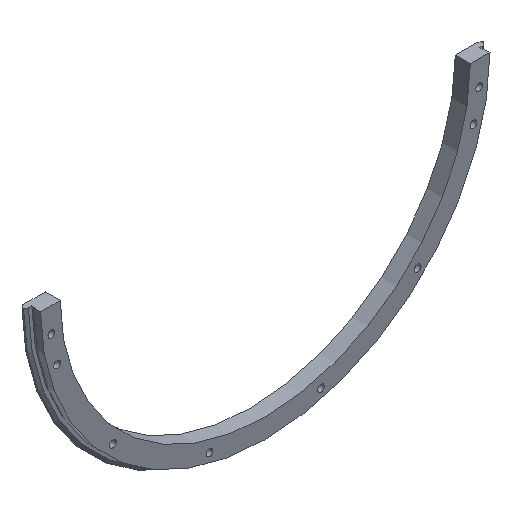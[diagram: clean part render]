
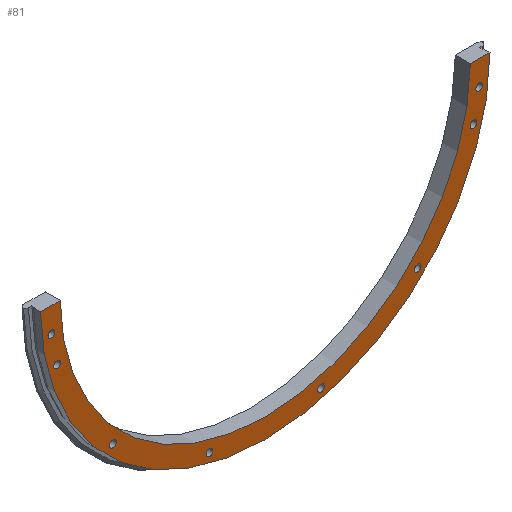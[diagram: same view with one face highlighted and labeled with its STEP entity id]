
A CAD part, isometric view. The second image highlights one B-rep face of the part: STEP entity #81.
In plain terms, the highlighted planar face has unit normal (0, -1, 0).
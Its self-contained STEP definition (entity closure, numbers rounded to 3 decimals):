
#81 = ADVANCED_FACE( '', ( #124, #125, #126, #127, #128, #129, #130, #131, #132 ), #133, .T. );
#124 = FACE_BOUND( '', #237, .T. );
#125 = FACE_BOUND( '', #238, .T. );
#126 = FACE_BOUND( '', #239, .T. );
#127 = FACE_BOUND( '', #240, .T. );
#128 = FACE_BOUND( '', #241, .T. );
#129 = FACE_BOUND( '', #242, .T. );
#130 = FACE_BOUND( '', #243, .T. );
#131 = FACE_BOUND( '', #244, .T. );
#132 = FACE_OUTER_BOUND( '', #245, .T. );
#133 = PLANE( '', #246 );
#237 = EDGE_LOOP( '', ( #386 ) );
#238 = EDGE_LOOP( '', ( #387 ) );
#239 = EDGE_LOOP( '', ( #388 ) );
#240 = EDGE_LOOP( '', ( #389 ) );
#241 = EDGE_LOOP( '', ( #390 ) );
#242 = EDGE_LOOP( '', ( #391 ) );
#243 = EDGE_LOOP( '', ( #392 ) );
#244 = EDGE_LOOP( '', ( #393 ) );
#245 = EDGE_LOOP( '', ( #394, #395, #396, #397 ) );
#246 = AXIS2_PLACEMENT_3D( '', #398, #399, #400 );
#386 = ORIENTED_EDGE( '', *, *, #592, .F. );
#387 = ORIENTED_EDGE( '', *, *, #593, .F. );
#388 = ORIENTED_EDGE( '', *, *, #594, .F. );
#389 = ORIENTED_EDGE( '', *, *, #595, .F. );
#390 = ORIENTED_EDGE( '', *, *, #596, .F. );
#391 = ORIENTED_EDGE( '', *, *, #597, .F. );
#392 = ORIENTED_EDGE( '', *, *, #598, .F. );
#393 = ORIENTED_EDGE( '', *, *, #599, .F. );
#394 = ORIENTED_EDGE( '', *, *, #590, .T. );
#395 = ORIENTED_EDGE( '', *, *, #571, .T. );
#396 = ORIENTED_EDGE( '', *, *, #600, .F. );
#397 = ORIENTED_EDGE( '', *, *, #601, .T. );
#398 = CARTESIAN_POINT( '', ( -167., 0., 0. ) );
#399 = DIRECTION( '', ( 0., -1., 0. ) );
#400 = DIRECTION( '', ( 0., 0., -1. ) );
#571 = EDGE_CURVE( '', #634, #635, #636, .T. );
#590 = EDGE_CURVE( '', #668, #634, #669, .T. );
#592 = EDGE_CURVE( '', #671, #671, #672, .T. );
#593 = EDGE_CURVE( '', #673, #673, #674, .T. );
#594 = EDGE_CURVE( '', #675, #675, #676, .T. );
#595 = EDGE_CURVE( '', #677, #677, #678, .T. );
#596 = EDGE_CURVE( '', #679, #679, #680, .T. );
#597 = EDGE_CURVE( '', #681, #681, #682, .T. );
#598 = EDGE_CURVE( '', #683, #683, #684, .T. );
#599 = EDGE_CURVE( '', #685, #685, #686, .T. );
#600 = EDGE_CURVE( '', #687, #635, #688, .T. );
#601 = EDGE_CURVE( '', #687, #668, #689, .T. );
#634 = VERTEX_POINT( '', #748 );
#635 = VERTEX_POINT( '', #749 );
#636 = LINE( '', #750, #751 );
#668 = VERTEX_POINT( '', #810 );
#669 = CIRCLE( '', #811, 183. );
#671 = VERTEX_POINT( '', #814 );
#672 = CIRCLE( '', #815, 2.75 );
#673 = VERTEX_POINT( '', #816 );
#674 = CIRCLE( '', #817, 2.75 );
#675 = VERTEX_POINT( '', #818 );
#676 = CIRCLE( '', #819, 2.75 );
#677 = VERTEX_POINT( '', #820 );
#678 = CIRCLE( '', #821, 2.75 );
#679 = VERTEX_POINT( '', #822 );
#680 = CIRCLE( '', #823, 2.75 );
#681 = VERTEX_POINT( '', #824 );
#682 = CIRCLE( '', #825, 2.75 );
#683 = VERTEX_POINT( '', #826 );
#684 = CIRCLE( '', #827, 2.75 );
#685 = VERTEX_POINT( '', #828 );
#686 = CIRCLE( '', #829, 2.75 );
#687 = VERTEX_POINT( '', #830 );
#688 = CIRCLE( '', #831, 167. );
#689 = LINE( '', #832, #833 );
#748 = CARTESIAN_POINT( '', ( 182.994, 0., -1.5 ) );
#749 = CARTESIAN_POINT( '', ( 166.993, 0., -1.5 ) );
#750 = CARTESIAN_POINT( '', ( 193., 0., -1.5 ) );
#751 = VECTOR( '', #906, 1000. );
#810 = CARTESIAN_POINT( '', ( -182.994, 0., -1.5 ) );
#811 = AXIS2_PLACEMENT_3D( '', #931, #932, #933 );
#814 = CARTESIAN_POINT( '', ( 124.097, 0., -126.847 ) );
#815 = AXIS2_PLACEMENT_3D( '', #935, #936, #937 );
#816 = CARTESIAN_POINT( '', ( 45.423, 0., -172.27 ) );
#817 = AXIS2_PLACEMENT_3D( '', #938, #939, #940 );
#818 = CARTESIAN_POINT( '', ( -124.097, 0., -126.847 ) );
#819 = AXIS2_PLACEMENT_3D( '', #941, #942, #943 );
#820 = CARTESIAN_POINT( '', ( -45.423, 0., -172.27 ) );
#821 = AXIS2_PLACEMENT_3D( '', #944, #945, #946 );
#822 = CARTESIAN_POINT( '', ( -169.52, 0., -48.173 ) );
#823 = AXIS2_PLACEMENT_3D( '', #947, #948, #949 );
#824 = CARTESIAN_POINT( '', ( -174.178, 0., -24.251 ) );
#825 = AXIS2_PLACEMENT_3D( '', #950, #951, #952 );
#826 = CARTESIAN_POINT( '', ( 169.52, 0., -48.173 ) );
#827 = AXIS2_PLACEMENT_3D( '', #953, #954, #955 );
#828 = CARTESIAN_POINT( '', ( 174.178, 0., -24.251 ) );
#829 = AXIS2_PLACEMENT_3D( '', #956, #957, #958 );
#830 = CARTESIAN_POINT( '', ( -166.993, 0., -1.5 ) );
#831 = AXIS2_PLACEMENT_3D( '', #959, #960, #961 );
#832 = CARTESIAN_POINT( '', ( 193., 0., -1.5 ) );
#833 = VECTOR( '', #962, 1000. );
#906 = DIRECTION( '', ( -1., 0., 0. ) );
#931 = CARTESIAN_POINT( '', ( 0., 0., 0. ) );
#932 = DIRECTION( '', ( 0., -1., 0. ) );
#933 = DIRECTION( '', ( 0., 0., -1. ) );
#935 = CARTESIAN_POINT( '', ( 124.097, 0., -124.097 ) );
#936 = DIRECTION( '', ( 0., -1., 0. ) );
#937 = DIRECTION( '', ( 0., 0., -1. ) );
#938 = CARTESIAN_POINT( '', ( 45.423, 0., -169.52 ) );
#939 = DIRECTION( '', ( 0., -1., 0. ) );
#940 = DIRECTION( '', ( 0., 0., -1. ) );
#941 = CARTESIAN_POINT( '', ( -124.097, 0., -124.097 ) );
#942 = DIRECTION( '', ( 0., -1., 0. ) );
#943 = DIRECTION( '', ( 0., 0., -1. ) );
#944 = CARTESIAN_POINT( '', ( -45.423, 0., -169.52 ) );
#945 = DIRECTION( '', ( 0., -1., 0. ) );
#946 = DIRECTION( '', ( 0., 0., -1. ) );
#947 = CARTESIAN_POINT( '', ( -169.52, 0., -45.423 ) );
#948 = DIRECTION( '', ( 0., -1., 0. ) );
#949 = DIRECTION( '', ( 0., 0., -1. ) );
#950 = CARTESIAN_POINT( '', ( -174.178, 0., -21.501 ) );
#951 = DIRECTION( '', ( 0., -1., 0. ) );
#952 = DIRECTION( '', ( 0., 0., -1. ) );
#953 = CARTESIAN_POINT( '', ( 169.52, 0., -45.423 ) );
#954 = DIRECTION( '', ( 0., -1., 0. ) );
#955 = DIRECTION( '', ( 0., 0., -1. ) );
#956 = CARTESIAN_POINT( '', ( 174.178, 0., -21.501 ) );
#957 = DIRECTION( '', ( 0., -1., 0. ) );
#958 = DIRECTION( '', ( 0., 0., -1. ) );
#959 = CARTESIAN_POINT( '', ( 0., 0., 0. ) );
#960 = DIRECTION( '', ( 0., -1., 0. ) );
#961 = DIRECTION( '', ( 0., 0., -1. ) );
#962 = DIRECTION( '', ( -1., 0., 0. ) );
